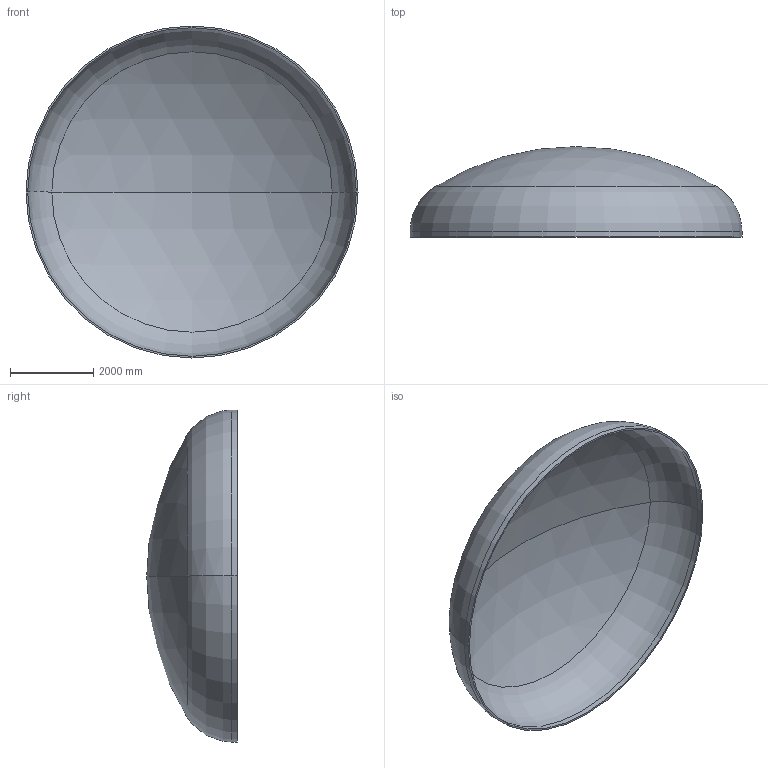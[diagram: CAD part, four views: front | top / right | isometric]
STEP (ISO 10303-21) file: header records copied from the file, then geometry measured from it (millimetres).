
FILE_DESCRIPTION (( 'STEP AP203' ), '1' );
FILE_NAME ('DIN 28013 Korbbogenform_-_Boden DIN 28013 - 8000 x 130 - I - s=41.step', '2016-07-04T11:01:25', ( '' ), ( '' ), 'SwSTEP 2.0', 'SolidWorks 2013', '' );
FILE_SCHEMA (( 'CONFIG_CONTROL_DESIGN' ));
Length unit declared in the file: millimetre
Products named in the file (1): DIN 28013 Korbbogenform_-_Boden DIN 28013 - 8000 x 130 - I - s=41
Bounding box: 8000 x 2179.93 x 8000 mm (x, y, z)
Volume: 2967491388.4 mm3; surface area: 145784302.3 mm2
Topology: 1 solids, 1 shells, 13 faces, 24 edges, 14 vertices
Faces by surface type: torus 4, cylinder 4, sphere 4, plane 1
Entity records: 407 total; most frequent: DIRECTION 72, CARTESIAN_POINT 52, ORIENTED_EDGE 48, AXIS2_PLACEMENT_3D 34, EDGE_CURVE 24, CIRCLE 20, VERTEX_POINT 14, EDGE_LOOP 14
